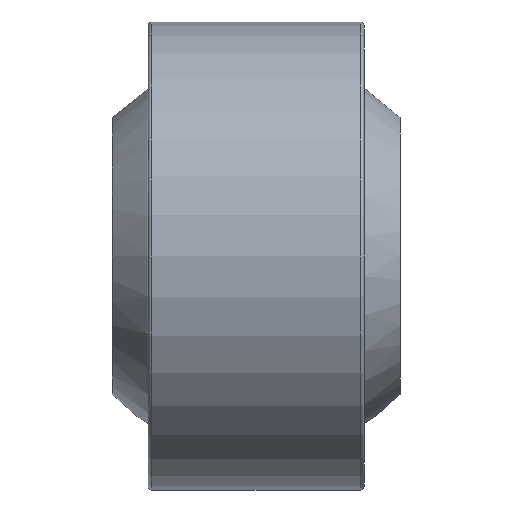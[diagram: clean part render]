
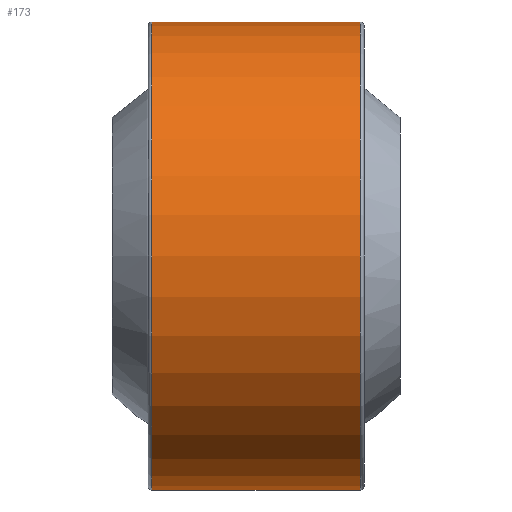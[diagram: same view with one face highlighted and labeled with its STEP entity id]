
A CAD part, front view. The second image highlights one B-rep face of the part: STEP entity #173.
In plain terms, the highlighted cylindrical face has radius 13 mm (diameter 26 mm), a full revolution.
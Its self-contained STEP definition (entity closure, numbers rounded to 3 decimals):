
#173 = ADVANCED_FACE( '', ( #193, #194 ), #195, .T. );
#193 = FACE_OUTER_BOUND( '', #224, .T. );
#194 = FACE_OUTER_BOUND( '', #225, .T. );
#195 = CYLINDRICAL_SURFACE( '', #226, 13. );
#224 = EDGE_LOOP( '', ( #262 ) );
#225 = EDGE_LOOP( '', ( #263 ) );
#226 = AXIS2_PLACEMENT_3D( '', #264, #265, #266 );
#262 = ORIENTED_EDGE( '', *, *, #297, .T. );
#263 = ORIENTED_EDGE( '', *, *, #296, .F. );
#264 = CARTESIAN_POINT( '', ( 6., 0., 0. ) );
#265 = DIRECTION( '', ( -1., 0., 0. ) );
#266 = DIRECTION( '', ( 0., 0., -1. ) );
#296 = EDGE_CURVE( '', #310, #310, #311, .T. );
#297 = EDGE_CURVE( '', #312, #312, #313, .T. );
#310 = VERTEX_POINT( '', #330 );
#311 = CIRCLE( '', #331, 13. );
#312 = VERTEX_POINT( '', #332 );
#313 = CIRCLE( '', #333, 13. );
#330 = CARTESIAN_POINT( '', ( 5.8, 0., -13. ) );
#331 = AXIS2_PLACEMENT_3D( '', #354, #355, #356 );
#332 = CARTESIAN_POINT( '', ( -5.8, 0., -13. ) );
#333 = AXIS2_PLACEMENT_3D( '', #357, #358, #359 );
#354 = CARTESIAN_POINT( '', ( 5.8, 0., 0. ) );
#355 = DIRECTION( '', ( 1., 0., 0. ) );
#356 = DIRECTION( '', ( 0., 0., -1. ) );
#357 = CARTESIAN_POINT( '', ( -5.8, 0., 0. ) );
#358 = DIRECTION( '', ( 1., 0., 0. ) );
#359 = DIRECTION( '', ( 0., 0., -1. ) );
